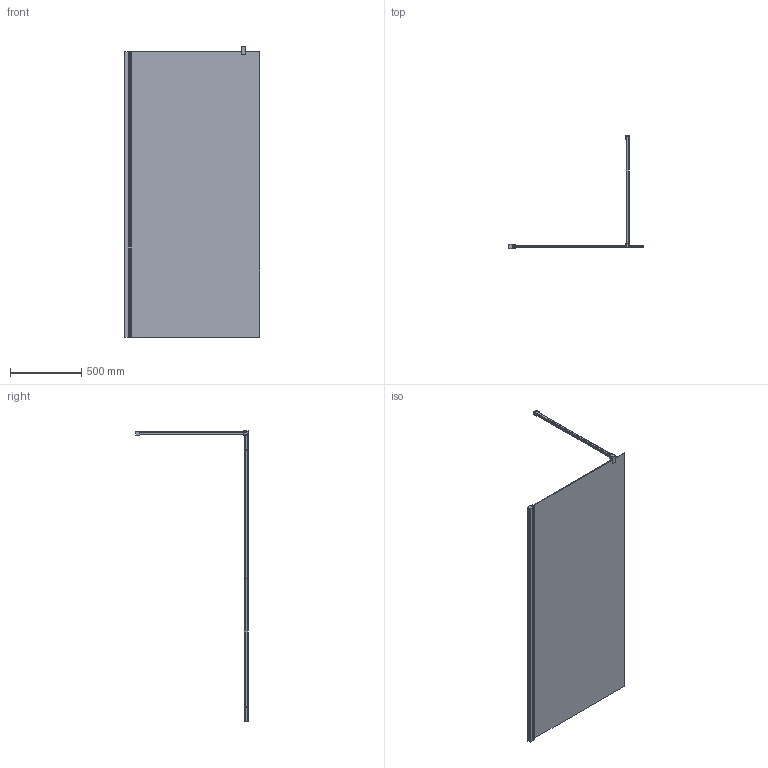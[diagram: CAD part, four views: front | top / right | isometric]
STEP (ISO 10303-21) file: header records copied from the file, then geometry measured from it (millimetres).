
FILE_DESCRIPTION(/* description */ (''),/* implementation_level */ '2;1');
FILE_NAME(/* name */ 'D:\17\ЭГ Перегородки\WALK-IN P006STB\WALK-IN P006STB левая модель\WALK-IN P006STB ЛЕВАЯ-3D.stp',/* time_stamp */ '2022-03-01T21:07:31+03:00',/* author */ ('User'),/* organization */ (''),/* preprocessor_version */ 'ST-DEVELOPER v15.2',/* originating_system */ 'Autodesk Inventor 2014',/* authorisation */ '');
FILE_SCHEMA (('CONFIG_CONTROL_DESIGN'));
Length unit declared in the file: millimetre
Products named in the file (1): WALK-IN P006STB ЛЕВАЯ-3D
Bounding box: 950 x 791.1 x 2034 mm (x, y, z)
Volume: 13489116.8 mm3; surface area: 4034063.9 mm2
Topology: 3 solids, 3 shells, 118 faces, 321 edges, 213 vertices
Faces by surface type: plane 68, cylinder 49, cone 1
Full cylindrical faces by diameter (mm): 4.2 x6, 5.2 x1
Entity records: 3897 total; most frequent: DIRECTION 650, CARTESIAN_POINT 645, ORIENTED_EDGE 626, EDGE_CURVE 313, AXIS2_PLACEMENT_3D 218, LINE 214, VECTOR 214, VERTEX_POINT 213
